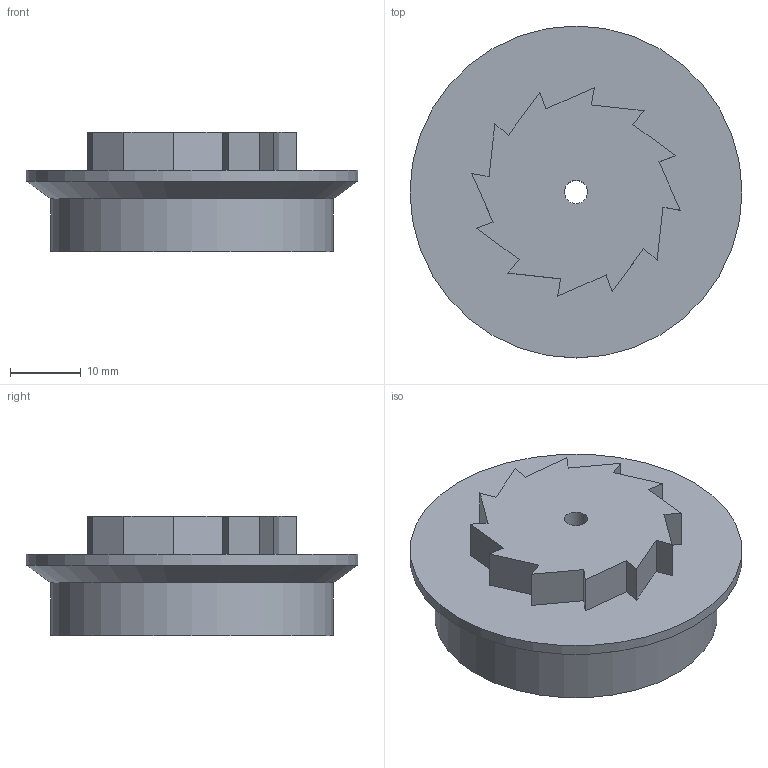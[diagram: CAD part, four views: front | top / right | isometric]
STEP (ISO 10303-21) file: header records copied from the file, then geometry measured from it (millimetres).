
FILE_DESCRIPTION(('Open CASCADE Model'),'2;1');
FILE_NAME('Open CASCADE Shape Model','2026-10-05T13:03:06',('Author'),( 'Open CASCADE'),'Open CASCADE STEP processor 7.9','Open CASCADE 7.9' ,'Unknown');
FILE_SCHEMA(('AUTOMOTIVE_DESIGN { 1 0 10303 214 1 1 1 1 }'));
Length unit declared in the file: millimetre
Products named in the file (1): Open CASCADE STEP translator 7.9 8
Bounding box: 47 x 47 x 16.9 mm (x, y, z)
Volume: 18492.3 mm3; surface area: 5783.3 mm2
Topology: 1 solids, 1 shells, 37 faces, 91 edges, 60 vertices
Faces by surface type: plane 30, cylinder 6, cone 1
Full cylindrical faces by diameter (mm): 2.6 x3, 3.3 x1, 40 x1, 47 x1
Entity records: 2278 total; most frequent: CARTESIAN_POINT 371, DIRECTION 361, LINE 251, VECTOR 251, ORIENTED_EDGE 182, PCURVE 182, DEFINITIONAL_REPRESENTATION 182, EDGE_CURVE 91
